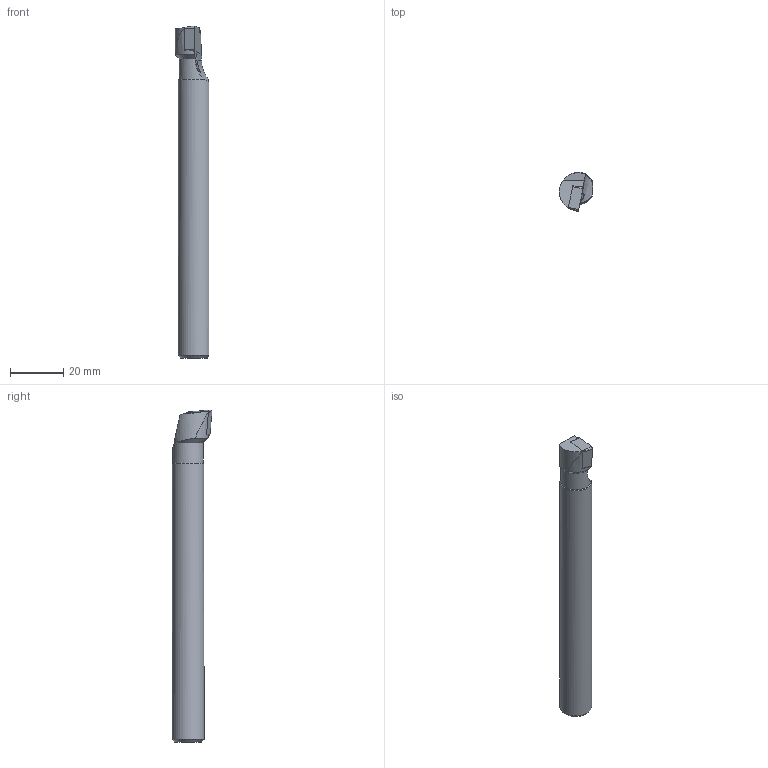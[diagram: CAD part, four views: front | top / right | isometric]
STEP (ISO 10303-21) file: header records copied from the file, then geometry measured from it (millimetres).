
FILE_DESCRIPTION(/* description */ (''),/* implementation_level */ '2;1');
FILE_NAME(/* name */ 'A12K-SCLCR-09-HAAS.stp',/* time_stamp */ '2021-09-29T09:19:48+09:00',/* author */ (''),/* organization */ (''),/* preprocessor_version */ 'ST-DEVELOPER v16.7',/* originating_system */ 'SIEMENS PLM Software NX 1946',/* authorisation */ '');
FILE_SCHEMA (('AUTOMOTIVE_DESIGN { 1 0 10303 214 3 1 1 1 }'));
Length unit declared in the file: millimetre
Products named in the file (1): user0130CD5E65nu
Bounding box: 12.62 x 14.95 x 124.96 mm (x, y, z)
Volume: 12778.1 mm3; surface area: 6128.6 mm2
Topology: 2 solids, 2 shells, 28 faces, 74 edges, 49 vertices
Faces by surface type: plane 12, cone 9, cylinder 6, bspline 1
Full cylindrical faces by diameter (mm): 2.5 x1, 3 x1
Entity records: 1047 total; most frequent: CARTESIAN_POINT 284, ORIENTED_EDGE 136, DIRECTION 130, EDGE_CURVE 68, AXIS2_PLACEMENT_3D 52, VERTEX_POINT 46, EDGE_LOOP 32, ADVANCED_FACE 28
